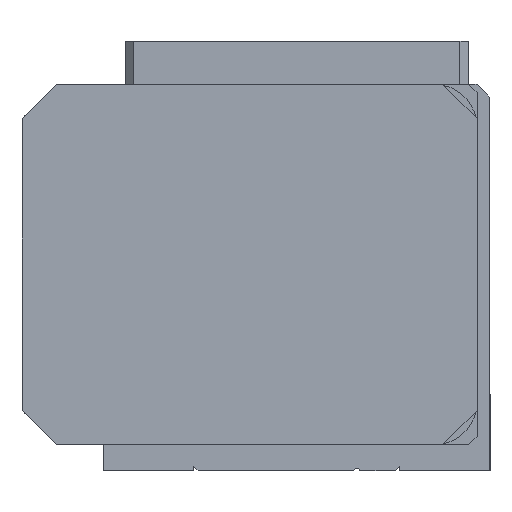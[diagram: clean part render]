
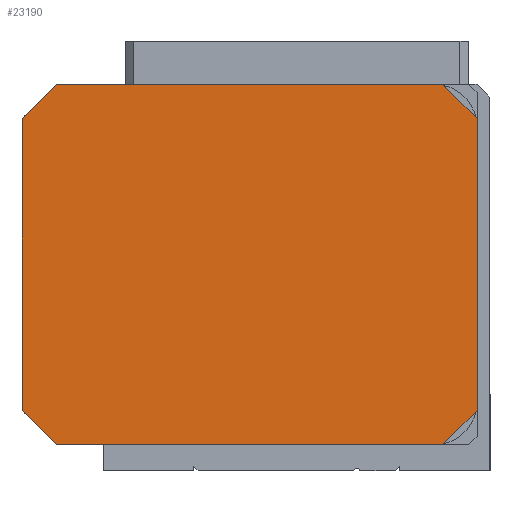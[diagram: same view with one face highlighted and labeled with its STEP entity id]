
A CAD part, left-side view. The second image highlights one B-rep face of the part: STEP entity #23190.
In plain terms, the highlighted planar face has unit normal (-1, 0, 0).
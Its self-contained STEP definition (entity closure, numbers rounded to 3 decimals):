
#22466=CARTESIAN_POINT('',(-82.5,28.,45.));
#22467=VERTEX_POINT('',#22466);
#22474=CARTESIAN_POINT('',(-82.5,-17.0,45.));
#22475=VERTEX_POINT('',#22474);
#22476=CARTESIAN_POINT('',(-82.5,-17.0,45.));
#22477=DIRECTION('',(0.0,1.0,0.0));
#22478=VECTOR('',#22477,45.);
#22479=LINE('',#22476,#22478);
#22480=EDGE_CURVE('',#22475,#22467,#22479,.T.);
#22867=CARTESIAN_POINT('',(-82.5,28.,3.));
#22868=VERTEX_POINT('',#22867);
#22875=CARTESIAN_POINT('',(-82.5,32.,7.));
#22876=VERTEX_POINT('',#22875);
#22877=CARTESIAN_POINT('',(-82.5,32.,7.));
#22878=DIRECTION('',(0.0,-0.707,-0.707));
#22879=VECTOR('',#22878,5.657);
#22880=LINE('',#22877,#22879);
#22881=EDGE_CURVE('',#22876,#22868,#22880,.T.);
#22908=CARTESIAN_POINT('',(-82.5,-21.0,7.));
#22909=VERTEX_POINT('',#22908);
#22916=CARTESIAN_POINT('',(-82.5,-17.0,3.));
#22917=VERTEX_POINT('',#22916);
#22918=CARTESIAN_POINT('',(-82.5,-17.0,3.));
#22919=DIRECTION('',(0.0,-0.707,0.707));
#22920=VECTOR('',#22919,5.657);
#22921=LINE('',#22918,#22920);
#22922=EDGE_CURVE('',#22917,#22909,#22921,.T.);
#22964=CARTESIAN_POINT('',(-82.5,-21.0,41.));
#22965=VERTEX_POINT('',#22964);
#22966=CARTESIAN_POINT('',(-82.5,-21.0,41.));
#22967=DIRECTION('',(0.0,0.707,0.707));
#22968=VECTOR('',#22967,5.657);
#22969=LINE('',#22966,#22968);
#22970=EDGE_CURVE('',#22965,#22475,#22969,.T.);
#22997=CARTESIAN_POINT('',(-82.5,32.,41.));
#22998=VERTEX_POINT('',#22997);
#23005=CARTESIAN_POINT('',(-82.5,28.,45.));
#23006=DIRECTION('',(0.0,0.707,-0.707));
#23007=VECTOR('',#23006,5.657);
#23008=LINE('',#23005,#23007);
#23009=EDGE_CURVE('',#22467,#22998,#23008,.T.);
#23054=CARTESIAN_POINT('',(-82.5,28.,3.));
#23055=DIRECTION('',(0.0,-1.0,0.0));
#23056=VECTOR('',#23055,45.);
#23057=LINE('',#23054,#23056);
#23058=EDGE_CURVE('',#22868,#22917,#23057,.T.);
#23165=CARTESIAN_POINT('',(-82.5,32.,24.));
#23166=DIRECTION('',(-1.0,0.0,0.0));
#23167=DIRECTION('',(0.0,1.0,0.0));
#23168=AXIS2_PLACEMENT_3D('',#23165,#23166,#23167);
#23169=PLANE('',#23168);
#23170=ORIENTED_EDGE('',*,*,#22881,.T.);
#23171=ORIENTED_EDGE('',*,*,#23058,.T.);
#23172=ORIENTED_EDGE('',*,*,#22922,.T.);
#23173=CARTESIAN_POINT('',(-82.5,-21.0,7.));
#23174=DIRECTION('',(0.0,0.0,1.0));
#23175=VECTOR('',#23174,34.);
#23176=LINE('',#23173,#23175);
#23177=EDGE_CURVE('',#22909,#22965,#23176,.T.);
#23178=ORIENTED_EDGE('',*,*,#23177,.T.);
#23179=ORIENTED_EDGE('',*,*,#22970,.T.);
#23180=ORIENTED_EDGE('',*,*,#22480,.T.);
#23181=ORIENTED_EDGE('',*,*,#23009,.T.);
#23182=CARTESIAN_POINT('',(-82.5,32.,41.));
#23183=DIRECTION('',(0.0,0.0,-1.0));
#23184=VECTOR('',#23183,34.);
#23185=LINE('',#23182,#23184);
#23186=EDGE_CURVE('',#22998,#22876,#23185,.T.);
#23187=ORIENTED_EDGE('',*,*,#23186,.T.);
#23188=EDGE_LOOP('',(#23170,#23171,#23172,#23178,#23179,#23180,#23181,#23187));
#23189=FACE_OUTER_BOUND('',#23188,.T.);
#23190=ADVANCED_FACE('',(#23189),#23169,.T.);
